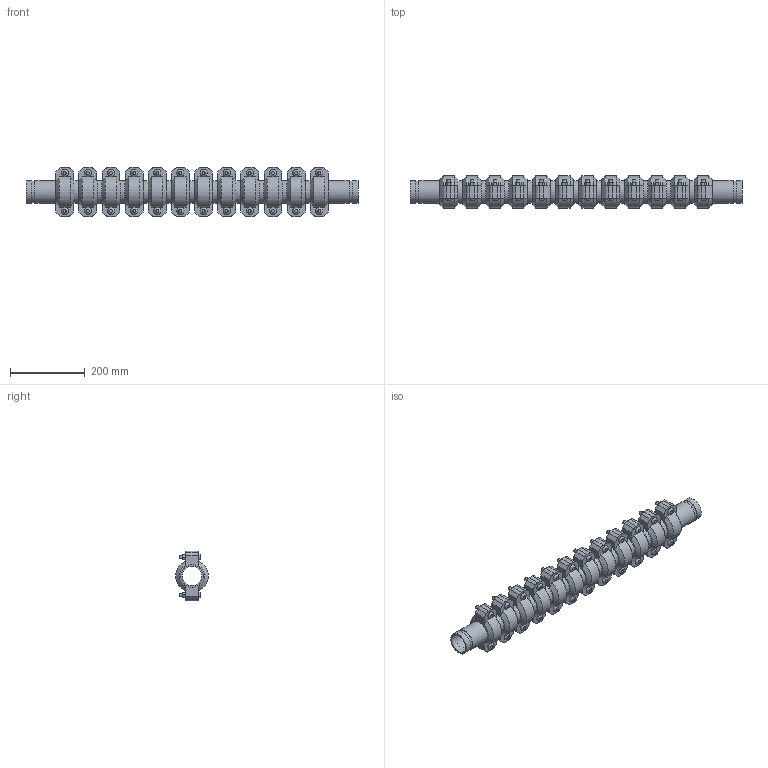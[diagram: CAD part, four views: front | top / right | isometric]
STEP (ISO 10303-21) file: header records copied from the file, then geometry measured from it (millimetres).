
FILE_DESCRIPTION(/* description */ ('VIC EXPANSION JOINT 12 COUPLINGS EXPANDED STYLE 155 (OGS)','CAx-IF Rec.Pracs.---Representation and Presentation of Product Manufacturing Information (PMI)---4.0---2014-10-13'),/* implementation_level */ '2;1');
FILE_NAME(/* name */ 'C:\Users\kkamble\AppData\Roaming\Autodesk\ApplicationPlugins\Victaulic.Temp\A519\Victaulic_IPS_Expansion Joint_Expanded_12 Couplings_Style 155 (OGS)_2 (50).stp',/* time_stamp */ '2021-06-26T23:54:06+02:00',/* author */ ('kkamble'),/* organization */ ('Victaulic'),/* preprocessor_version */ 'ST-DEVELOPER v17.2',/* originating_system */ 'Autodesk Inventor 2019',/* authorisation */ '');
FILE_SCHEMA (('AP242_MANAGED_MODEL_BASED_3D_ENGINEERING_MIM_LF { 1 0 10303 442 1 1 4 }'));
Length unit declared in the file: inch
Products named in the file (4): 155-02.0; Nipple-02.0; Nipple-02.0_1; 075-02.0
Assembly tree (25 placements, depth 2):
  155-02.0
    Nipple-02.0  x2
    Nipple-02.0_1  x11
    075-02.0  x12
Bounding box: 889.25 x 87.12 x 132.59 mm (x, y, z)
Volume: 2953524.1 mm3; surface area: 817911 mm2
Topology: 25 solids, 49 shells, 840 faces, 1986 edges, 1392 vertices
Faces by surface type: plane 510, cylinder 258, cone 48, bspline 24
Full cylindrical faces by diameter (mm): 9.525 x48, 11.43 x24, 52.502 x13, 53.975 x12, 57.15 x26, 60.325 x63
Entity records: 2913 total; most frequent: CARTESIAN_POINT 509, DIRECTION 493, ORIENTED_EDGE 386, AXIS2_PLACEMENT_3D 200, EDGE_CURVE 193, VERTEX_POINT 138, EDGE_LOOP 107, LINE 93
